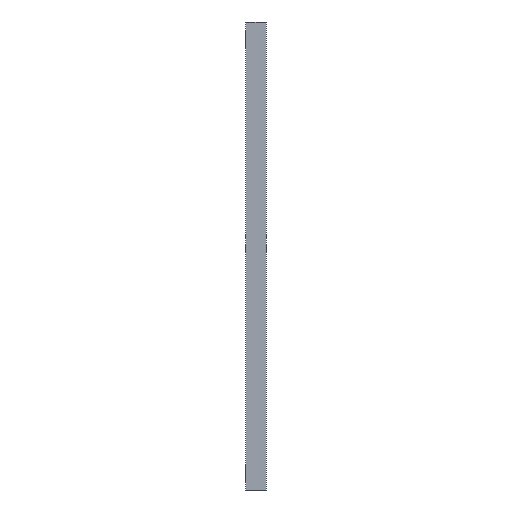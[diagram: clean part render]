
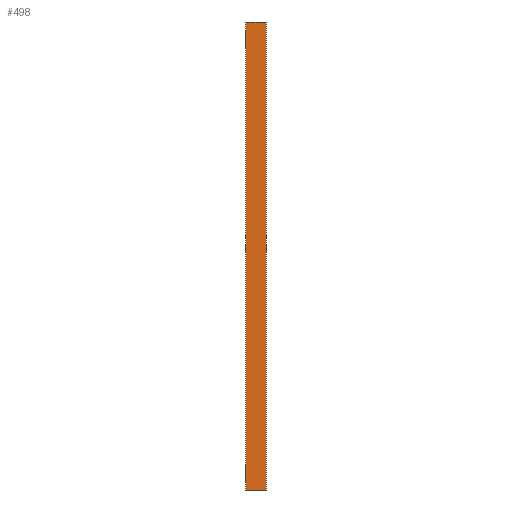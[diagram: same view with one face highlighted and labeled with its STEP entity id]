
A CAD part, left-side view. The second image highlights one B-rep face of the part: STEP entity #498.
In plain terms, the highlighted planar face has unit normal (-1, 0, 0).
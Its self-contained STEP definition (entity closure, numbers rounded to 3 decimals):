
#40 = LINE ( 'NONE', #1311, #1187 ) ;
#42 = CARTESIAN_POINT ( 'NONE',  ( -8., 0., 279. ) ) ;
#55 = ORIENTED_EDGE ( 'NONE', *, *, #1103, .F. ) ;
#118 = LINE ( 'NONE', #875, #612 ) ;
#129 = ORIENTED_EDGE ( 'NONE', *, *, #1244, .F. ) ;
#135 = FACE_OUTER_BOUND ( 'NONE', #1092, .T. ) ;
#143 = LINE ( 'NONE', #573, #1327 ) ;
#145 = VERTEX_POINT ( 'NONE', #1098 ) ;
#158 = AXIS2_PLACEMENT_3D ( 'NONE', #449, #228, #557 ) ;
#159 = VERTEX_POINT ( 'NONE', #1336 ) ;
#163 = EDGE_CURVE ( 'NONE', #546, #709, #118, .T. ) ;
#181 = LINE ( 'NONE', #614, #347 ) ;
#202 = EDGE_CURVE ( 'NONE', #145, #709, #40, .T. ) ;
#209 = LINE ( 'NONE', #1287, #843 ) ;
#228 = DIRECTION ( 'NONE',  ( -1., 0., 0. ) ) ;
#260 = DIRECTION ( 'NONE',  ( 0., 1., 0. ) ) ;
#317 = LINE ( 'NONE', #1082, #1356 ) ;
#327 = DIRECTION ( 'NONE',  ( 0., 0., -1. ) ) ;
#343 = DIRECTION ( 'NONE',  ( 0., -1., 0. ) ) ;
#347 = VECTOR ( 'NONE', #260, 1000. ) ;
#355 = DIRECTION ( 'NONE',  ( 0., -1., 0. ) ) ;
#357 = EDGE_CURVE ( 'NONE', #159, #546, #317, .T. ) ;
#413 = VECTOR ( 'NONE', #693, 1000. ) ;
#439 = EDGE_CURVE ( 'NONE', #493, #145, #181, .T. ) ;
#445 = VERTEX_POINT ( 'NONE', #42 ) ;
#449 = CARTESIAN_POINT ( 'NONE',  ( -8., 0., 279. ) ) ;
#461 = LINE ( 'NONE', #669, #540 ) ;
#473 = CARTESIAN_POINT ( 'NONE',  ( -8., 3.2, 279. ) ) ;
#483 = ORIENTED_EDGE ( 'NONE', *, *, #357, .T. ) ;
#493 = VERTEX_POINT ( 'NONE', #1107 ) ;
#498 = ADVANCED_FACE ( 'NONE', ( #135 ), #690, .T. ) ;
#540 = VECTOR ( 'NONE', #355, 1000. ) ;
#546 = VERTEX_POINT ( 'NONE', #924 ) ;
#557 = DIRECTION ( 'NONE',  ( 0., 0., 1. ) ) ;
#560 = ORIENTED_EDGE ( 'NONE', *, *, #841, .T. ) ;
#573 = CARTESIAN_POINT ( 'NONE',  ( -8., 0., 0. ) ) ;
#612 = VECTOR ( 'NONE', #327, 1000. ) ;
#614 = CARTESIAN_POINT ( 'NONE',  ( -8., 0., 0. ) ) ;
#637 = ORIENTED_EDGE ( 'NONE', *, *, #439, .F. ) ;
#669 = CARTESIAN_POINT ( 'NONE',  ( -8., 0., 279. ) ) ;
#690 = PLANE ( 'NONE',  #158 ) ;
#693 = DIRECTION ( 'NONE',  ( 0., 1., 0. ) ) ;
#707 = ORIENTED_EDGE ( 'NONE', *, *, #202, .F. ) ;
#709 = VERTEX_POINT ( 'NONE', #754 ) ;
#754 = CARTESIAN_POINT ( 'NONE',  ( -8., 12.5, 0. ) ) ;
#794 = DIRECTION ( 'NONE',  ( 0., 1., 0. ) ) ;
#841 = EDGE_CURVE ( 'NONE', #493, #1040, #143, .T. ) ;
#843 = VECTOR ( 'NONE', #1083, 1000. ) ;
#850 = VERTEX_POINT ( 'NONE', #473 ) ;
#860 = DIRECTION ( 'NONE',  ( 0., 1., 0. ) ) ;
#867 = CARTESIAN_POINT ( 'NONE',  ( -8., 0., 279. ) ) ;
#875 = CARTESIAN_POINT ( 'NONE',  ( -8., 12.5, 279. ) ) ;
#924 = CARTESIAN_POINT ( 'NONE',  ( -8., 12.5, 279. ) ) ;
#1040 = VERTEX_POINT ( 'NONE', #1394 ) ;
#1082 = CARTESIAN_POINT ( 'NONE',  ( -8., 12.5, 279. ) ) ;
#1083 = DIRECTION ( 'NONE',  ( 0., 0., -1. ) ) ;
#1092 = EDGE_LOOP ( 'NONE', ( #637, #560, #55, #129, #1173, #483, #1151, #707 ) ) ;
#1098 = CARTESIAN_POINT ( 'NONE',  ( -8., 9.3, 0. ) ) ;
#1103 = EDGE_CURVE ( 'NONE', #445, #1040, #209, .T. ) ;
#1107 = CARTESIAN_POINT ( 'NONE',  ( -8., 3.2, 0. ) ) ;
#1151 = ORIENTED_EDGE ( 'NONE', *, *, #163, .T. ) ;
#1173 = ORIENTED_EDGE ( 'NONE', *, *, #1181, .T. ) ;
#1181 = EDGE_CURVE ( 'NONE', #850, #159, #1197, .T. ) ;
#1187 = VECTOR ( 'NONE', #794, 1000. ) ;
#1197 = LINE ( 'NONE', #867, #413 ) ;
#1244 = EDGE_CURVE ( 'NONE', #850, #445, #461, .T. ) ;
#1287 = CARTESIAN_POINT ( 'NONE',  ( -8., 0., 279. ) ) ;
#1311 = CARTESIAN_POINT ( 'NONE',  ( -8., 0., 0. ) ) ;
#1327 = VECTOR ( 'NONE', #343, 1000. ) ;
#1336 = CARTESIAN_POINT ( 'NONE',  ( -8., 9.3, 279. ) ) ;
#1356 = VECTOR ( 'NONE', #860, 1000. ) ;
#1394 = CARTESIAN_POINT ( 'NONE',  ( -8., 0., 0. ) ) ;
